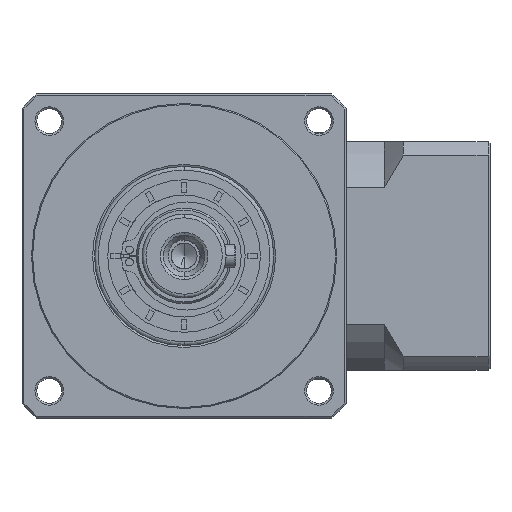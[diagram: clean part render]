
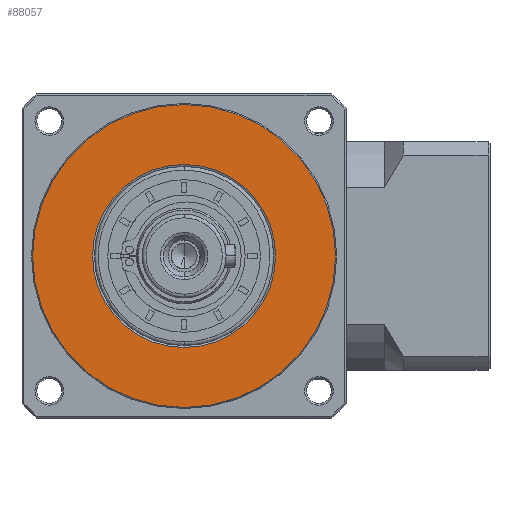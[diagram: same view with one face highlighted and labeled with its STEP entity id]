
A CAD part, left-side view. The second image highlights one B-rep face of the part: STEP entity #88057.
In plain terms, the highlighted planar face has unit normal (-1, 0, 0).
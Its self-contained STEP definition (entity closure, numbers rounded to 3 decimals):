
#5461 = DIRECTION ( 'NONE',  ( 0., 0., -1. ) ) ;
#8749 = CARTESIAN_POINT ( 'NONE',  ( 23.917, 32.419, -40.952 ) ) ;
#11161 = CARTESIAN_POINT ( 'NONE',  ( 23.917, 32.419, -40.952 ) ) ;
#12189 = AXIS2_PLACEMENT_3D ( 'NONE', #117137, #34490, #130969 ) ;
#19948 = VERTEX_POINT ( 'NONE', #139122 ) ;
#22595 = DIRECTION ( 'NONE',  ( 0., 0., -1. ) ) ;
#25021 = AXIS2_PLACEMENT_3D ( 'NONE', #8749, #105146, #22595 ) ;
#25030 = DIRECTION ( 'NONE',  ( 0., 1., 0. ) ) ;
#25814 = CIRCLE ( 'NONE', #140144, 39.711 ) ;
#27282 = FACE_OUTER_BOUND ( 'NONE', #177779, .T. ) ;
#32484 = EDGE_CURVE ( 'NONE', #101837, #72020, #126794, .T. ) ;
#34490 = DIRECTION ( 'NONE',  ( 1., 0., 0. ) ) ;
#36429 = DIRECTION ( 'NONE',  ( 1., 0., 0. ) ) ;
#50734 = ORIENTED_EDGE ( 'NONE', *, *, #164129, .F. ) ;
#59686 = ORIENTED_EDGE ( 'NONE', *, *, #105247, .T. ) ;
#68308 = CARTESIAN_POINT ( 'NONE',  ( 23.917, 72.13, -40.952 ) ) ;
#70635 = ORIENTED_EDGE ( 'NONE', *, *, #109808, .F. ) ;
#72020 = VERTEX_POINT ( 'NONE', #94879 ) ;
#88057 = ADVANCED_FACE ( 'NONE', ( #27282, #141517 ), #142232, .T. ) ;
#88102 = DIRECTION ( 'NONE',  ( -1., 0., 0. ) ) ;
#94879 = CARTESIAN_POINT ( 'NONE',  ( 23.917, 32.419, -16.952 ) ) ;
#101837 = VERTEX_POINT ( 'NONE', #162935 ) ;
#103024 = EDGE_LOOP ( 'NONE', ( #120341, #59686 ) ) ;
#105146 = DIRECTION ( 'NONE',  ( 1., 0., 0. ) ) ;
#105247 = EDGE_CURVE ( 'NONE', #72020, #101837, #115545, .T. ) ;
#107585 = DIRECTION ( 'NONE',  ( 1., 0., 0. ) ) ;
#109808 = EDGE_CURVE ( 'NONE', #19948, #125376, #163470, .T. ) ;
#115545 = CIRCLE ( 'NONE', #172911, 24. ) ;
#117137 = CARTESIAN_POINT ( 'NONE',  ( 23.917, 32.419, -40.952 ) ) ;
#119080 = CARTESIAN_POINT ( 'NONE',  ( 23.917, 32.419, -40.952 ) ) ;
#120341 = ORIENTED_EDGE ( 'NONE', *, *, #32484, .T. ) ;
#125376 = VERTEX_POINT ( 'NONE', #68308 ) ;
#126794 = CIRCLE ( 'NONE', #25021, 24. ) ;
#130969 = DIRECTION ( 'NONE',  ( 0., 1., 0. ) ) ;
#132904 = DIRECTION ( 'NONE',  ( 0., 0., -1. ) ) ;
#139122 = CARTESIAN_POINT ( 'NONE',  ( 23.917, -7.293, -40.952 ) ) ;
#140144 = AXIS2_PLACEMENT_3D ( 'NONE', #11161, #107585, #25030 ) ;
#141517 = FACE_BOUND ( 'NONE', #103024, .T. ) ;
#142232 = PLANE ( 'NONE',  #160244 ) ;
#160244 = AXIS2_PLACEMENT_3D ( 'NONE', #170611, #88102, #5461 ) ;
#162935 = CARTESIAN_POINT ( 'NONE',  ( 23.917, 32.419, -64.952 ) ) ;
#163470 = CIRCLE ( 'NONE', #12189, 39.711 ) ;
#164129 = EDGE_CURVE ( 'NONE', #125376, #19948, #25814, .T. ) ;
#170611 = CARTESIAN_POINT ( 'NONE',  ( 23.917, 32.419, -40.952 ) ) ;
#172911 = AXIS2_PLACEMENT_3D ( 'NONE', #119080, #36429, #132904 ) ;
#177779 = EDGE_LOOP ( 'NONE', ( #50734, #70635 ) ) ;
